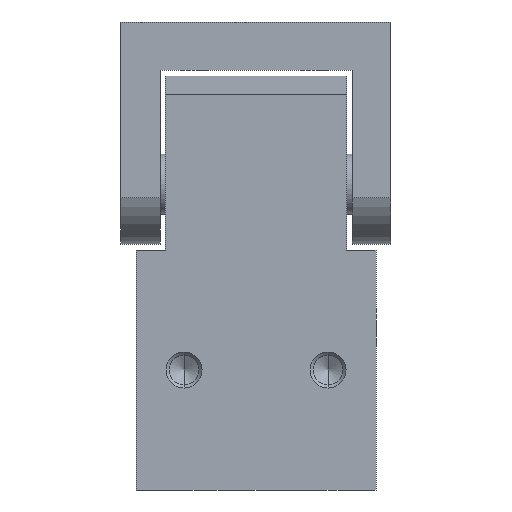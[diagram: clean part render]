
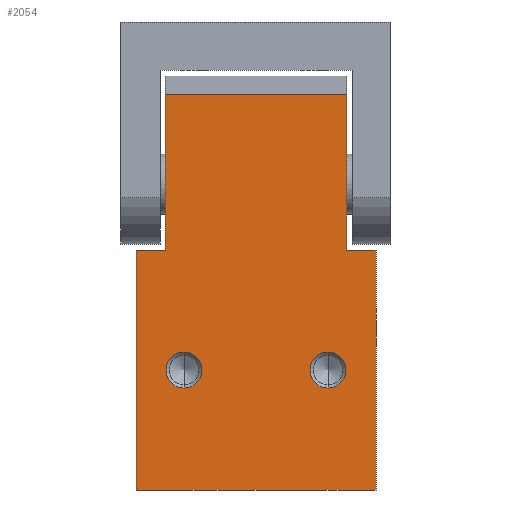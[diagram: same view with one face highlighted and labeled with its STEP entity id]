
A CAD part, left-side view. The second image highlights one B-rep face of the part: STEP entity #2054.
In plain terms, the highlighted planar face has unit normal (-1, 0, 0).
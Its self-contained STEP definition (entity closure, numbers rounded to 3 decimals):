
#13 = VECTOR ( 'NONE', #3368, 1000. ) ;
#39 = DIRECTION ( 'NONE',  ( 0., -1., 0. ) ) ;
#149 = LINE ( 'NONE', #5772, #4901 ) ;
#152 = DIRECTION ( 'NONE',  ( 0., 0., -1. ) ) ;
#463 = DIRECTION ( 'NONE',  ( 0., 0., 1. ) ) ;
#490 = VERTEX_POINT ( 'NONE', #665 ) ;
#665 = CARTESIAN_POINT ( 'NONE',  ( -22.5, -15.15, 66. ) ) ;
#722 = DIRECTION ( 'NONE',  ( 0., -1., 0. ) ) ;
#774 = CARTESIAN_POINT ( 'NONE',  ( -22.5, -15.15, 40. ) ) ;
#821 = DIRECTION ( 'NONE',  ( 0., 0., -1. ) ) ;
#842 = VECTOR ( 'NONE', #463, 1000. ) ;
#1094 = EDGE_CURVE ( 'NONE', #2561, #2545, #6060, .T. ) ;
#1101 = DIRECTION ( 'NONE',  ( 0., 0., -1. ) ) ;
#1125 = DIRECTION ( 'NONE',  ( 1., 0., 0. ) ) ;
#1188 = AXIS2_PLACEMENT_3D ( 'NONE', #5653, #1125, #4657 ) ;
#1490 = AXIS2_PLACEMENT_3D ( 'NONE', #4370, #2294, #3846 ) ;
#1526 = EDGE_CURVE ( 'NONE', #2545, #4233, #6052, .T. ) ;
#1593 = CARTESIAN_POINT ( 'NONE',  ( -22.5, -12., 20. ) ) ;
#1596 = CIRCLE ( 'NONE', #1490, 3. ) ;
#1624 = PLANE ( 'NONE',  #1188 ) ;
#1639 = ORIENTED_EDGE ( 'NONE', *, *, #5881, .T. ) ;
#1663 = VECTOR ( 'NONE', #722, 1000. ) ;
#1687 = CARTESIAN_POINT ( 'NONE',  ( -22.5, 15.15, 66. ) ) ;
#1793 = VECTOR ( 'NONE', #5777, 1000. ) ;
#1834 = EDGE_LOOP ( 'NONE', ( #6320, #3943 ) ) ;
#1841 = EDGE_CURVE ( 'NONE', #3974, #5300, #4340, .T. ) ;
#1897 = EDGE_CURVE ( 'NONE', #2362, #6541, #5375, .T. ) ;
#1923 = DIRECTION ( 'NONE',  ( 0., -1., 0. ) ) ;
#2054 = ADVANCED_FACE ( 'NONE', ( #3635, #5152, #2644 ), #1624, .F. ) ;
#2076 = CIRCLE ( 'NONE', #5550, 3. ) ;
#2108 = DIRECTION ( 'NONE',  ( 0., 0., 1. ) ) ;
#2140 = CARTESIAN_POINT ( 'NONE',  ( -22.5, -20., 0. ) ) ;
#2152 = LINE ( 'NONE', #1687, #1663 ) ;
#2229 = ORIENTED_EDGE ( 'NONE', *, *, #5353, .T. ) ;
#2249 = LINE ( 'NONE', #4258, #1793 ) ;
#2279 = VERTEX_POINT ( 'NONE', #6068 ) ;
#2294 = DIRECTION ( 'NONE',  ( 1., 0., 0. ) ) ;
#2362 = VERTEX_POINT ( 'NONE', #774 ) ;
#2379 = EDGE_LOOP ( 'NONE', ( #3003, #4803 ) ) ;
#2493 = CARTESIAN_POINT ( 'NONE',  ( -22.5, 15.15, 40. ) ) ;
#2545 = VERTEX_POINT ( 'NONE', #2493 ) ;
#2561 = VERTEX_POINT ( 'NONE', #2961 ) ;
#2592 = ORIENTED_EDGE ( 'NONE', *, *, #1526, .F. ) ;
#2598 = CARTESIAN_POINT ( 'NONE',  ( -22.5, 20., 40. ) ) ;
#2640 = DIRECTION ( 'NONE',  ( 1., 0., 0. ) ) ;
#2644 = FACE_BOUND ( 'NONE', #1834, .T. ) ;
#2802 = ORIENTED_EDGE ( 'NONE', *, *, #4420, .F. ) ;
#2961 = CARTESIAN_POINT ( 'NONE',  ( -22.5, 20., 40. ) ) ;
#3003 = ORIENTED_EDGE ( 'NONE', *, *, #3098, .T. ) ;
#3098 = EDGE_CURVE ( 'NONE', #5300, #3974, #2076, .T. ) ;
#3310 = ORIENTED_EDGE ( 'NONE', *, *, #3582, .F. ) ;
#3368 = DIRECTION ( 'NONE',  ( 0., -1., 0. ) ) ;
#3413 = LINE ( 'NONE', #5484, #5218 ) ;
#3562 = DIRECTION ( 'NONE',  ( 0., 0., -1. ) ) ;
#3582 = EDGE_CURVE ( 'NONE', #4233, #490, #2152, .T. ) ;
#3627 = ORIENTED_EDGE ( 'NONE', *, *, #6039, .T. ) ;
#3635 = FACE_OUTER_BOUND ( 'NONE', #6018, .T. ) ;
#3846 = DIRECTION ( 'NONE',  ( 0., 0., -1. ) ) ;
#3862 = ORIENTED_EDGE ( 'NONE', *, *, #1897, .F. ) ;
#3943 = ORIENTED_EDGE ( 'NONE', *, *, #4748, .T. ) ;
#3974 = VERTEX_POINT ( 'NONE', #4640 ) ;
#4122 = AXIS2_PLACEMENT_3D ( 'NONE', #6103, #2640, #3562 ) ;
#4233 = VERTEX_POINT ( 'NONE', #6212 ) ;
#4258 = CARTESIAN_POINT ( 'NONE',  ( -22.5, -20., 40. ) ) ;
#4340 = CIRCLE ( 'NONE', #5925, 3. ) ;
#4370 = CARTESIAN_POINT ( 'NONE',  ( -22.5, 12., 20. ) ) ;
#4420 = EDGE_CURVE ( 'NONE', #6541, #6418, #2249, .T. ) ;
#4497 = CARTESIAN_POINT ( 'NONE',  ( -22.5, 20., 0. ) ) ;
#4626 = EDGE_CURVE ( 'NONE', #2279, #4999, #4757, .T. ) ;
#4640 = CARTESIAN_POINT ( 'NONE',  ( -22.5, -12., 17. ) ) ;
#4657 = DIRECTION ( 'NONE',  ( 0., 1., 0. ) ) ;
#4748 = EDGE_CURVE ( 'NONE', #4999, #2279, #1596, .T. ) ;
#4757 = CIRCLE ( 'NONE', #4122, 3. ) ;
#4803 = ORIENTED_EDGE ( 'NONE', *, *, #1841, .T. ) ;
#4901 = VECTOR ( 'NONE', #2108, 1000. ) ;
#4919 = CARTESIAN_POINT ( 'NONE',  ( -22.5, -12., 20. ) ) ;
#4999 = VERTEX_POINT ( 'NONE', #6189 ) ;
#5152 = FACE_BOUND ( 'NONE', #2379, .T. ) ;
#5218 = VECTOR ( 'NONE', #1923, 1000. ) ;
#5282 = VERTEX_POINT ( 'NONE', #4497 ) ;
#5300 = VERTEX_POINT ( 'NONE', #5552 ) ;
#5353 = EDGE_CURVE ( 'NONE', #5282, #6418, #3413, .T. ) ;
#5364 = ORIENTED_EDGE ( 'NONE', *, *, #1094, .F. ) ;
#5375 = LINE ( 'NONE', #5878, #13 ) ;
#5484 = CARTESIAN_POINT ( 'NONE',  ( -22.5, 20., 0. ) ) ;
#5550 = AXIS2_PLACEMENT_3D ( 'NONE', #1593, #6517, #1101 ) ;
#5552 = CARTESIAN_POINT ( 'NONE',  ( -22.5, -12., 23. ) ) ;
#5626 = CARTESIAN_POINT ( 'NONE',  ( -22.5, 15.15, 40. ) ) ;
#5651 = LINE ( 'NONE', #6105, #5850 ) ;
#5653 = CARTESIAN_POINT ( 'NONE',  ( -22.5, 20., 40. ) ) ;
#5772 = CARTESIAN_POINT ( 'NONE',  ( -22.5, -15.15, 40. ) ) ;
#5777 = DIRECTION ( 'NONE',  ( 0., 0., -1. ) ) ;
#5831 = VECTOR ( 'NONE', #39, 1000. ) ;
#5850 = VECTOR ( 'NONE', #152, 1000. ) ;
#5878 = CARTESIAN_POINT ( 'NONE',  ( -22.5, 20., 40. ) ) ;
#5881 = EDGE_CURVE ( 'NONE', #2561, #5282, #5651, .T. ) ;
#5925 = AXIS2_PLACEMENT_3D ( 'NONE', #4919, #5976, #821 ) ;
#5976 = DIRECTION ( 'NONE',  ( 1., 0., 0. ) ) ;
#6018 = EDGE_LOOP ( 'NONE', ( #2229, #2802, #3862, #3627, #3310, #2592, #5364, #1639 ) ) ;
#6039 = EDGE_CURVE ( 'NONE', #2362, #490, #149, .T. ) ;
#6052 = LINE ( 'NONE', #5626, #842 ) ;
#6060 = LINE ( 'NONE', #2598, #5831 ) ;
#6068 = CARTESIAN_POINT ( 'NONE',  ( -22.5, 12., 23. ) ) ;
#6103 = CARTESIAN_POINT ( 'NONE',  ( -22.5, 12., 20. ) ) ;
#6105 = CARTESIAN_POINT ( 'NONE',  ( -22.5, 20., 40. ) ) ;
#6189 = CARTESIAN_POINT ( 'NONE',  ( -22.5, 12., 17. ) ) ;
#6212 = CARTESIAN_POINT ( 'NONE',  ( -22.5, 15.15, 66. ) ) ;
#6320 = ORIENTED_EDGE ( 'NONE', *, *, #4626, .T. ) ;
#6322 = CARTESIAN_POINT ( 'NONE',  ( -22.5, -20., 40. ) ) ;
#6418 = VERTEX_POINT ( 'NONE', #2140 ) ;
#6517 = DIRECTION ( 'NONE',  ( 1., 0., 0. ) ) ;
#6541 = VERTEX_POINT ( 'NONE', #6322 ) ;
